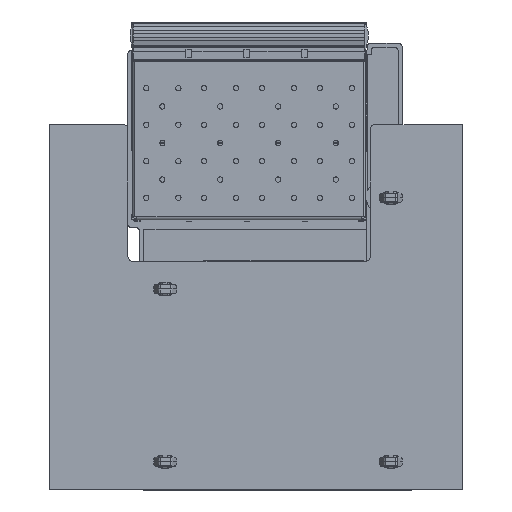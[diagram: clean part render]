
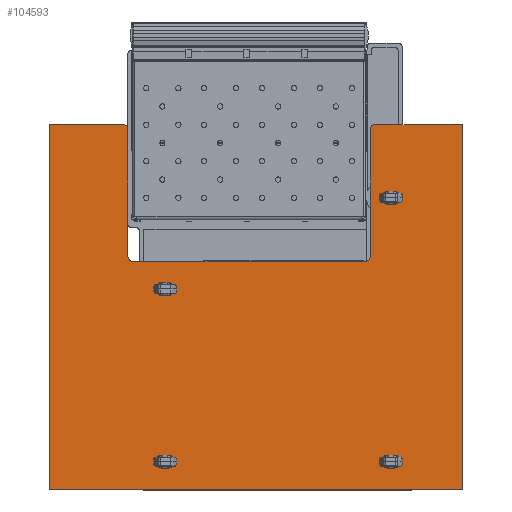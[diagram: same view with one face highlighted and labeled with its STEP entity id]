
A CAD part, front view. The second image highlights one B-rep face of the part: STEP entity #104593.
In plain terms, the highlighted planar face has unit normal (0, -1, 0).
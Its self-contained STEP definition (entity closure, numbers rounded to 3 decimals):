
#103798=DIRECTION('',(-1.,0.,0.));
#103799=VECTOR('',#103798,1.6);
#103800=CARTESIAN_POINT('',(100.2,-2.16,-465.9));
#103801=LINE('',#103800,#103799);
#103805=CARTESIAN_POINT('',(98.6,-2.16,-467.5));
#103806=DIRECTION('',(0.,-1.,0.));
#103807=DIRECTION('',(0.,0.,1.));
#103808=AXIS2_PLACEMENT_3D('',#103805,#103806,#103807);
#103813=DIRECTION('',(1.,0.,0.));
#103814=VECTOR('',#103813,1.6);
#103815=CARTESIAN_POINT('',(98.6,-2.16,-469.1));
#103816=LINE('',#103815,#103814);
#103820=CARTESIAN_POINT('',(100.2,-2.16,-467.5));
#103821=DIRECTION('',(0.,-1.,0.));
#103822=DIRECTION('',(0.,0.,-1.));
#103823=AXIS2_PLACEMENT_3D('',#103820,#103821,#103822);
#103828=DIRECTION('',(1.,0.,0.));
#103829=VECTOR('',#103828,1.6);
#103830=CARTESIAN_POINT('',(98.6,-2.16,-423.4));
#103831=LINE('',#103830,#103829);
#103835=CARTESIAN_POINT('',(98.6,-2.16,-425.));
#103836=DIRECTION('',(0.,1.,0.));
#103837=DIRECTION('',(0.,0.,-1.));
#103838=AXIS2_PLACEMENT_3D('',#103835,#103836,#103837);
#103843=DIRECTION('',(-1.,0.,0.));
#103844=VECTOR('',#103843,1.6);
#103845=CARTESIAN_POINT('',(100.2,-2.16,-426.6));
#103846=LINE('',#103845,#103844);
#103850=CARTESIAN_POINT('',(100.2,-2.16,-425.));
#103851=DIRECTION('',(0.,1.,0.));
#103852=DIRECTION('',(0.,0.,1.));
#103853=AXIS2_PLACEMENT_3D('',#103850,#103851,#103852);
#103858=CARTESIAN_POINT('',(44.6,-2.16,-425.));
#103859=DIRECTION('',(0.,1.,0.));
#103860=DIRECTION('',(0.,0.,1.));
#103861=AXIS2_PLACEMENT_3D('',#103858,#103859,#103860);
#103866=DIRECTION('',(1.,0.,0.));
#103867=VECTOR('',#103866,1.6);
#103868=CARTESIAN_POINT('',(43.,-2.16,-423.4));
#103869=LINE('',#103868,#103867);
#103873=CARTESIAN_POINT('',(43.,-2.16,-425.));
#103874=DIRECTION('',(0.,1.,0.));
#103875=DIRECTION('',(0.,0.,-1.));
#103876=AXIS2_PLACEMENT_3D('',#103873,#103874,#103875);
#103881=DIRECTION('',(-1.,0.,0.));
#103882=VECTOR('',#103881,1.6);
#103883=CARTESIAN_POINT('',(44.6,-2.16,-426.6));
#103884=LINE('',#103883,#103882);
#103888=CARTESIAN_POINT('',(44.6,-2.16,-490.));
#103889=DIRECTION('',(0.,1.,0.));
#103890=DIRECTION('',(0.,0.,1.));
#103891=AXIS2_PLACEMENT_3D('',#103888,#103889,#103890);
#103896=DIRECTION('',(1.,0.,0.));
#103897=VECTOR('',#103896,1.6);
#103898=CARTESIAN_POINT('',(43.,-2.16,-488.4));
#103899=LINE('',#103898,#103897);
#103903=CARTESIAN_POINT('',(43.,-2.16,-490.));
#103904=DIRECTION('',(0.,1.,0.));
#103905=DIRECTION('',(0.,0.,-1.));
#103906=AXIS2_PLACEMENT_3D('',#103903,#103904,#103905);
#103911=DIRECTION('',(-1.,0.,0.));
#103912=VECTOR('',#103911,1.6);
#103913=CARTESIAN_POINT('',(44.6,-2.16,-491.6));
#103914=LINE('',#103913,#103912);
#103918=CARTESIAN_POINT('',(47.77,-2.16,-507.));
#103919=DIRECTION('',(0.,-1.,0.));
#103920=DIRECTION('',(0.,0.,-1.));
#103921=AXIS2_PLACEMENT_3D('',#103918,#103919,#103920);
#103926=DIRECTION('',(1.,0.,0.));
#103927=VECTOR('',#103926,18.25);
#103928=CARTESIAN_POINT('',(109.62,-2.16,-508.));
#103929=LINE('',#103928,#103927);
#103933=CARTESIAN_POINT('',(109.62,-2.16,-507.));
#103934=DIRECTION('',(0.,-1.,0.));
#103935=DIRECTION('',(-1.,0.,0.));
#103936=AXIS2_PLACEMENT_3D('',#103933,#103934,#103935);
#103941=DIRECTION('',(0.,0.,1.));
#103942=VECTOR('',#103941,31.27);
#103943=CARTESIAN_POINT('',(108.62,-2.16,-507.));
#103944=LINE('',#103943,#103942);
#104224=DIRECTION('',(0.,0.,1.));
#104225=VECTOR('',#104224,31.27);
#104226=CARTESIAN_POINT('',(48.77,-2.16,-507.));
#104227=LINE('',#104226,#104225);
#104231=CARTESIAN_POINT('',(50.27,-2.16,-475.73));
#104232=DIRECTION('',(0.,1.,0.));
#104233=DIRECTION('',(-1.,0.,0.));
#104234=AXIS2_PLACEMENT_3D('',#104231,#104232,#104233);
#104268=DIRECTION('',(1.,0.,0.));
#104269=VECTOR('',#104268,56.85);
#104270=CARTESIAN_POINT('',(50.27,-2.16,-474.23));
#104271=LINE('',#104270,#104269);
#104275=CARTESIAN_POINT('',(107.12,-2.16,-475.73));
#104276=DIRECTION('',(0.,1.,0.));
#104277=DIRECTION('',(0.,0.,1.));
#104278=AXIS2_PLACEMENT_3D('',#104275,#104276,#104277);
#104340=DIRECTION('',(0.,0.,-1.));
#104341=VECTOR('',#104340,90.);
#104342=CARTESIAN_POINT('',(127.87,-2.16,-418.));
#104343=LINE('',#104342,#104341);
#104347=DIRECTION('',(1.,0.,0.));
#104348=VECTOR('',#104347,101.72);
#104349=CARTESIAN_POINT('',(26.15,-2.16,-418.));
#104350=LINE('',#104349,#104348);
#104368=DIRECTION('',(0.,0.,1.));
#104369=VECTOR('',#104368,90.);
#104370=CARTESIAN_POINT('',(26.15,-2.16,-508.));
#104371=LINE('',#104370,#104369);
#104389=DIRECTION('',(1.,0.,0.));
#104390=VECTOR('',#104389,21.62);
#104391=CARTESIAN_POINT('',(26.15,-2.16,-508.));
#104392=LINE('',#104391,#104390);
#104410=CARTESIAN_POINT('',(26.15,-2.16,-418.));
#104411=CARTESIAN_POINT('',(127.87,-2.16,-418.));
#104412=VERTEX_POINT('',#104410);
#104413=VERTEX_POINT('',#104411);
#104414=CARTESIAN_POINT('',(26.15,-2.16,-508.));
#104415=VERTEX_POINT('',#104414);
#104416=CARTESIAN_POINT('',(43.,-2.16,-423.4));
#104417=CARTESIAN_POINT('',(44.6,-2.16,-423.4));
#104418=VERTEX_POINT('',#104416);
#104419=VERTEX_POINT('',#104417);
#104420=CARTESIAN_POINT('',(43.,-2.16,-488.4));
#104421=CARTESIAN_POINT('',(44.6,-2.16,-488.4));
#104422=VERTEX_POINT('',#104420);
#104423=VERTEX_POINT('',#104421);
#104430=CARTESIAN_POINT('',(43.,-2.16,-426.6));
#104432=VERTEX_POINT('',#104430);
#104434=CARTESIAN_POINT('',(44.6,-2.16,-426.6));
#104435=VERTEX_POINT('',#104434);
#104440=CARTESIAN_POINT('',(43.,-2.16,-491.6));
#104442=VERTEX_POINT('',#104440);
#104446=CARTESIAN_POINT('',(44.6,-2.16,-491.6));
#104447=VERTEX_POINT('',#104446);
#104448=CARTESIAN_POINT('',(127.87,-2.16,-508.));
#104449=VERTEX_POINT('',#104448);
#104458=CARTESIAN_POINT('',(47.77,-2.16,-508.));
#104459=VERTEX_POINT('',#104458);
#104464=CARTESIAN_POINT('',(48.77,-2.16,-507.));
#104465=VERTEX_POINT('',#104464);
#104470=CARTESIAN_POINT('',(108.62,-2.16,-507.));
#104471=VERTEX_POINT('',#104470);
#104472=CARTESIAN_POINT('',(109.62,-2.16,-508.));
#104473=VERTEX_POINT('',#104472);
#104474=CARTESIAN_POINT('',(107.12,-2.16,-474.23));
#104476=VERTEX_POINT('',#104474);
#104478=CARTESIAN_POINT('',(108.62,-2.16,-475.73));
#104480=VERTEX_POINT('',#104478);
#104482=CARTESIAN_POINT('',(48.77,-2.16,-475.73));
#104484=VERTEX_POINT('',#104482);
#104486=CARTESIAN_POINT('',(50.27,-2.16,-474.23));
#104488=VERTEX_POINT('',#104486);
#104498=CARTESIAN_POINT('',(98.6,-2.16,-423.4));
#104499=CARTESIAN_POINT('',(100.2,-2.16,-423.4));
#104500=VERTEX_POINT('',#104498);
#104501=VERTEX_POINT('',#104499);
#104502=CARTESIAN_POINT('',(98.6,-2.16,-426.6));
#104503=VERTEX_POINT('',#104502);
#104504=CARTESIAN_POINT('',(100.2,-2.16,-426.6));
#104505=VERTEX_POINT('',#104504);
#104514=CARTESIAN_POINT('',(100.2,-2.16,-465.9));
#104515=CARTESIAN_POINT('',(98.6,-2.16,-465.9));
#104516=VERTEX_POINT('',#104514);
#104517=VERTEX_POINT('',#104515);
#104518=CARTESIAN_POINT('',(98.6,-2.16,-469.1));
#104519=VERTEX_POINT('',#104518);
#104520=CARTESIAN_POINT('',(100.2,-2.16,-469.1));
#104521=VERTEX_POINT('',#104520);
#104522=CARTESIAN_POINT('',(0.,-2.16,0.));
#104523=DIRECTION('',(0.,1.,0.));
#104524=DIRECTION('',(0.,0.,1.));
#104525=AXIS2_PLACEMENT_3D('',#104522,#104523,#104524);
#104526=PLANE('',#104525);
#104528=ORIENTED_EDGE('',*,*,#104527,.F.);
#104530=ORIENTED_EDGE('',*,*,#104529,.F.);
#104532=ORIENTED_EDGE('',*,*,#104531,.F.);
#104534=ORIENTED_EDGE('',*,*,#104533,.F.);
#104536=ORIENTED_EDGE('',*,*,#104535,.F.);
#104538=ORIENTED_EDGE('',*,*,#104537,.T.);
#104540=ORIENTED_EDGE('',*,*,#104539,.T.);
#104542=ORIENTED_EDGE('',*,*,#104541,.T.);
#104544=ORIENTED_EDGE('',*,*,#104543,.F.);
#104546=ORIENTED_EDGE('',*,*,#104545,.F.);
#104548=ORIENTED_EDGE('',*,*,#104547,.T.);
#104550=ORIENTED_EDGE('',*,*,#104549,.F.);
#104551=EDGE_LOOP('',(#104528,#104530,#104532,#104534,#104536,#104538,#104540,
#104542,#104544,#104546,#104548,#104550));
#104552=FACE_OUTER_BOUND('',#104551,.F.);
#104554=ORIENTED_EDGE('',*,*,#104553,.F.);
#104556=ORIENTED_EDGE('',*,*,#104555,.F.);
#104558=ORIENTED_EDGE('',*,*,#104557,.F.);
#104560=ORIENTED_EDGE('',*,*,#104559,.F.);
#104561=EDGE_LOOP('',(#104554,#104556,#104558,#104560));
#104562=FACE_BOUND('',#104561,.F.);
#104564=ORIENTED_EDGE('',*,*,#104563,.F.);
#104566=ORIENTED_EDGE('',*,*,#104565,.F.);
#104568=ORIENTED_EDGE('',*,*,#104567,.F.);
#104570=ORIENTED_EDGE('',*,*,#104569,.F.);
#104571=EDGE_LOOP('',(#104564,#104566,#104568,#104570));
#104572=FACE_BOUND('',#104571,.F.);
#104574=ORIENTED_EDGE('',*,*,#104573,.F.);
#104576=ORIENTED_EDGE('',*,*,#104575,.F.);
#104578=ORIENTED_EDGE('',*,*,#104577,.F.);
#104580=ORIENTED_EDGE('',*,*,#104579,.F.);
#104581=EDGE_LOOP('',(#104574,#104576,#104578,#104580));
#104582=FACE_BOUND('',#104581,.F.);
#104584=ORIENTED_EDGE('',*,*,#104583,.T.);
#104586=ORIENTED_EDGE('',*,*,#104585,.T.);
#104588=ORIENTED_EDGE('',*,*,#104587,.T.);
#104590=ORIENTED_EDGE('',*,*,#104589,.T.);
#104591=EDGE_LOOP('',(#104584,#104586,#104588,#104590));
#104592=FACE_BOUND('',#104591,.F.);
#103809=CIRCLE('',#103808,1.6);
#103824=CIRCLE('',#103823,1.6);
#103839=CIRCLE('',#103838,1.6);
#103854=CIRCLE('',#103853,1.6);
#103862=CIRCLE('',#103861,1.6);
#103877=CIRCLE('',#103876,1.6);
#103892=CIRCLE('',#103891,1.6);
#103907=CIRCLE('',#103906,1.6);
#103922=CIRCLE('',#103921,1.);
#103937=CIRCLE('',#103936,1.);
#104235=CIRCLE('',#104234,1.5);
#104279=CIRCLE('',#104278,1.5);
#104527=EDGE_CURVE('',#104488,#104476,#104271,.T.);
#104529=EDGE_CURVE('',#104484,#104488,#104235,.T.);
#104531=EDGE_CURVE('',#104465,#104484,#104227,.T.);
#104533=EDGE_CURVE('',#104459,#104465,#103922,.T.);
#104535=EDGE_CURVE('',#104415,#104459,#104392,.T.);
#104537=EDGE_CURVE('',#104415,#104412,#104371,.T.);
#104539=EDGE_CURVE('',#104412,#104413,#104350,.T.);
#104541=EDGE_CURVE('',#104413,#104449,#104343,.T.);
#104543=EDGE_CURVE('',#104473,#104449,#103929,.T.);
#104545=EDGE_CURVE('',#104471,#104473,#103937,.T.);
#104547=EDGE_CURVE('',#104471,#104480,#103944,.T.);
#104549=EDGE_CURVE('',#104476,#104480,#104279,.T.);
#104553=EDGE_CURVE('',#104500,#104501,#103831,.T.);
#104555=EDGE_CURVE('',#104503,#104500,#103839,.T.);
#104557=EDGE_CURVE('',#104505,#104503,#103846,.T.);
#104559=EDGE_CURVE('',#104501,#104505,#103854,.T.);
#104563=EDGE_CURVE('',#104419,#104435,#103862,.T.);
#104565=EDGE_CURVE('',#104418,#104419,#103869,.T.);
#104567=EDGE_CURVE('',#104432,#104418,#103877,.T.);
#104569=EDGE_CURVE('',#104435,#104432,#103884,.T.);
#104573=EDGE_CURVE('',#104423,#104447,#103892,.T.);
#104575=EDGE_CURVE('',#104422,#104423,#103899,.T.);
#104577=EDGE_CURVE('',#104442,#104422,#103907,.T.);
#104579=EDGE_CURVE('',#104447,#104442,#103914,.T.);
#104583=EDGE_CURVE('',#104516,#104517,#103801,.T.);
#104585=EDGE_CURVE('',#104517,#104519,#103809,.T.);
#104587=EDGE_CURVE('',#104519,#104521,#103816,.T.);
#104589=EDGE_CURVE('',#104521,#104516,#103824,.T.);
#104593=ADVANCED_FACE('',(#104552,#104562,#104572,#104582,#104592),#104526,.F.);
